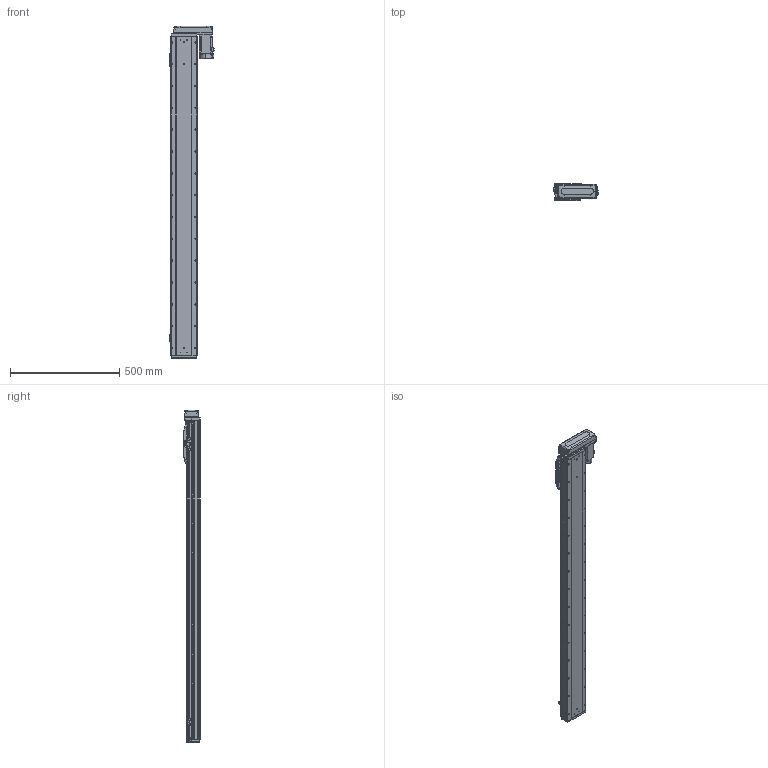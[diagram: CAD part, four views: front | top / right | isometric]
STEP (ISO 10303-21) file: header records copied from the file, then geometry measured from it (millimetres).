
FILE_DESCRIPTION (( 'STEP AP203' ), '1' );
FILE_NAME ('GTH12-1250-BL-M40-C4.step', '2025-07-16T03:40:34', ( '' ), ( '' ), 'SwSTEP 2.0', 'SolidWorks 2023', '' );
FILE_SCHEMA (( 'CONFIG_CONTROL_DESIGN' ));
Length unit declared in the file: millimetre
Products named in the file (17): CTHA86-033_M40B; 感应器总成左; GBT 70.3-M3×8; GBT 70.1-M5×16; GTH120-001_1250; 感应器总成右; BTH-M3X5X6; GTH120-004; GTH120-027-1_GTH120-027-2; GTH120-013; GBT 70.1-M3×6; GTH120-003; GTH80-028; GTH80-022; hg-kn43j_-s100_; GTH120-006; GTH12-1250-BL-M40-C4
Assembly tree (38 placements, depth 2):
  GTH12-1250-BL-M40-C4
    GTH120-001_1250
    GTH120-003
    GTH120-006
    GTH120-004
    GTH120-013
    GBT 70.1-M3×6  x2
    GBT 70.1-M5×16  x10
    GBT 70.3-M3×8  x4
    GTH80-022
    GTH80-028  x2
    BTH-M3X5X6  x8
    hg-kn43j_-s100_
    CTHA86-033_M40B
    GTH120-027-1_GTH120-027-2
    感应器总成右  x2
    感应器总成左
Bounding box: 203.5 x 76 x 1520.5 mm (x, y, z)
Volume: 10764957.8 mm3; surface area: 890782.4 mm2
Topology: 55 solids, 55 shells, 2543 faces, 6016 edges, 3709 vertices
Faces by surface type: plane 1276, cylinder 763, cone 328, torus 162, sphere 8, bspline 6
Entity records: 57086 total; most frequent: CARTESIAN_POINT 9766, DIRECTION 9711, ORIENTED_EDGE 9024, EDGE_CURVE 4512, AXIS2_PLACEMENT_3D 3387, LINE 2937, VECTOR 2937, VERTEX_POINT 2842
